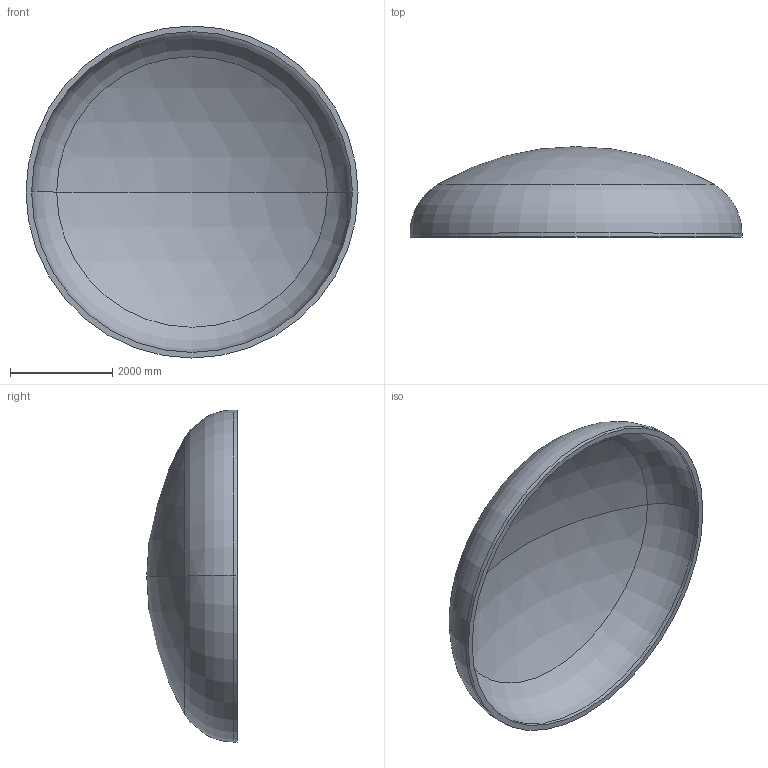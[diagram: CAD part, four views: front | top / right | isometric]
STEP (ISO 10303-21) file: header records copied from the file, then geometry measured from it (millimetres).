
FILE_DESCRIPTION (( 'STEP AP203' ), '1' );
FILE_NAME ('DIN 28013 Korbbogenform_-_Boden DIN 28013 - 6500 x 75 - I - s=110.step', '2016-07-04T10:44:18', ( '' ), ( '' ), 'SwSTEP 2.0', 'SolidWorks 2013', '' );
FILE_SCHEMA (( 'CONFIG_CONTROL_DESIGN' ));
Length unit declared in the file: millimetre
Products named in the file (1): DIN 28013 Korbbogenform_-_Boden DIN 28013 - 6500 x 75 - I - s=110
Bounding box: 6500 x 1771.08 x 6500 mm (x, y, z)
Volume: 5108420307.4 mm3; surface area: 95113901.8 mm2
Topology: 1 solids, 1 shells, 13 faces, 24 edges, 14 vertices
Faces by surface type: torus 4, cylinder 4, sphere 4, plane 1
Entity records: 407 total; most frequent: DIRECTION 72, CARTESIAN_POINT 52, ORIENTED_EDGE 48, AXIS2_PLACEMENT_3D 34, EDGE_CURVE 24, CIRCLE 20, EDGE_LOOP 14, VERTEX_POINT 14
